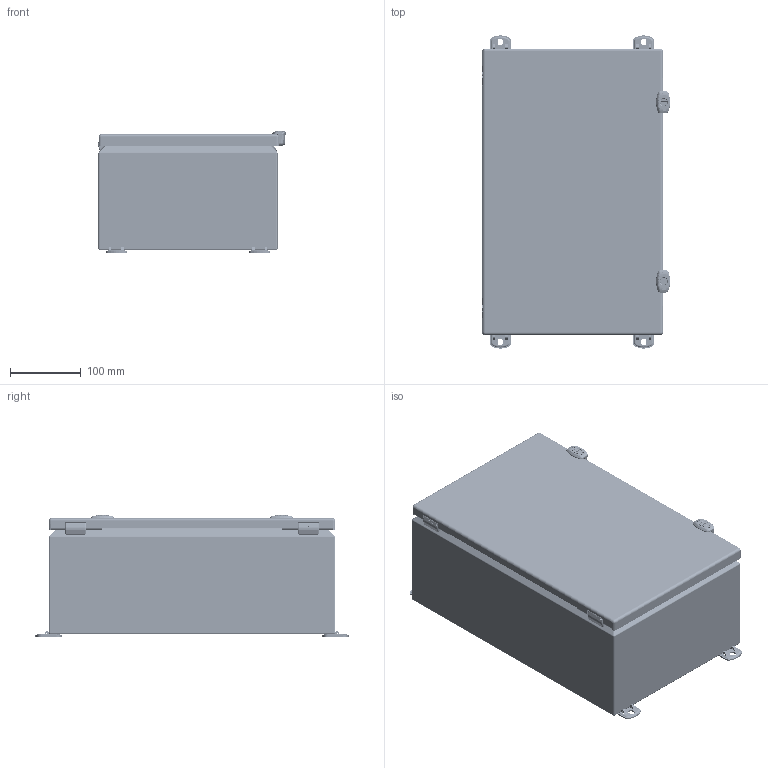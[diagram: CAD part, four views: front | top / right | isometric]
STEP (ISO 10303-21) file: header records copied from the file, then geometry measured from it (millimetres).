
FILE_DESCRIPTION(/* description */ ('5412ESSMCH 16" x 10" x 6" Assembly'),/* implementation_level */ '2;1');
FILE_NAME(/* name */ 'C:\Vault_Workspace\Inventor_Dwg\BoxCad\Result\5412ESSMCH1610066\e-mail\3D\5412ESSMCH1610066.stp',/* time_stamp */ '2023-03-13T14:39:57-04:00',/* author */ ('BoxCad'),/* organization */ (''),/* preprocessor_version */ 'ST-DEVELOPER v18.1',/* originating_system */ 'Autodesk Inventor 2020',/* authorisation */ '');
FILE_SCHEMA (('AUTOMOTIVE_DESIGN { 1 0 10303 214 3 1 1 }'));
Products named in the file (44): 5412ESSMCH1610066; 5412ESSMCH1610066B; 5412ESSMCH1610066B-P; STK-Q-08500; STK-A-70469-1; STK-Q-08100-1; STK-A-70469-2; STK-Q-70469-P; STK-Q-70469-S; STK-Q-70469-O; STK-Q-08100-2; 880SP1610G; 880SP1610G-P; 5412ESSMCH1610066AK; STK-Q-71350; STK-Q-10251; STK-Q-10251-A; STK-Q-10251-B; STK-Q-03075; STK-Q-07260; STK-Q-03200; 5412ESSMCH1610066C; 5412ESSMCH1610066C-P; 5412ESSMCH1610066G; STK-A-33038-1; STK-A-33038-2; STK-Q-33038-B; STK-Q-33038-S; STK-Q-33038-G; STANDOFF_SS_M6 x 10mm; STK-S-00100; STK-A-880SCQ3MS-1; STK-A-880SCQ3MS-2; STK-Q-79961-A; STK-Q-79961-B; STK-Q-70820; STK-Q-08100-3; STK-Q-08100-4; STK-Q-08100-A; STK-Q-08100-B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
Assembly tree (79 placements, depth 4):
  5412ESSMCH1610066
    5412ESSMCH1610066B
      5412ESSMCH1610066B-P
      STK-Q-08500  x4
      STANDOFF_SS_M6 x 10mm
      STK-A-70469-1
        STK-Q-70469-P
        STK-Q-70469-S
        STK-Q-70469-O
      STK-Q-08100-1
        STK-Q-08100-A
        STK-Q-08100-B
      STK-A-70469-2
        STK-Q-70469-P
        STK-Q-70469-S
        STK-Q-70469-O
      STK-Q-08100-2
        STK-Q-08100-A
        STK-Q-08100-B
    880SP1610G
      880SP1610G-P
    5412ESSMCH1610066AK
      STK-Q-71350  x4
      STK-Q-03075  x4
      STK-Q-10251  x4
        STK-Q-10251-A
        STK-Q-10251-B
      STK-Q-07260  x4
      STK-Q-03200  x4
    5412ESSMCH1610066C
      5412ESSMCH1610066C-P
      5412ESSMCH1610066G
      STK-A-33038-1
        STK-Q-33038-B
        STK-Q-33038-S
        STK-Q-33038-G
      STK-A-33038-2
        STK-Q-33038-B
        STK-Q-33038-S
        STK-Q-33038-G
      STANDOFF_SS_M6 x 10mm
      STK-S-00100
      STK-A-880SCQ3MS-1
        STK-Q-79961-A
        STK-Q-79961-B
        STK-Q-70820
      STK-A-880SCQ3MS-2
        STK-Q-79961-A
        STK-Q-79961-B
        STK-Q-70820
    STK-Q-08100-3
      STK-Q-08100-A
      STK-Q-08100-B
    STK-Q-08100-4
      STK-Q-08100-A
      STK-Q-08100-B
    STK-Q-10249-3
      STK-Q-10249-A
      STK-Q-10249-B
    STK-Q-10249-4
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Bounding box: 266.67 x 444.4 x 171.7 mm (x, y, z)
Volume: 820004.4 mm3; surface area: 1149964.2 mm2
Topology: 67 solids, 67 shells, 8527 faces, 21870 edges, 13432 vertices
Faces by surface type: plane 3923, cylinder 1858, bspline 1824, torus 522, cone 208, sphere 192
Full cylindrical faces by diameter (mm): 0.762 x6, 0.9 x6, 3 x2, 3.175 x2, 3.25 x2, 4.2 x4, 4.4 x12, 4.45 x2, 4.9 x30, 5 x4, 5.1 x34, 5.9 x84, 6 x8, 6.1 x6, 7.62 x4, 8.128 x4, 8.382 x2, 8.6 x2, 10 x6, 10.465 x2, 10.7 x2, 13 x4
Entity records: 133189 total; most frequent: CARTESIAN_POINT 47833, ORIENTED_EDGE 18478, DIRECTION 15794, EDGE_CURVE 9239, VERTEX_POINT 5757, AXIS2_PLACEMENT_3D 5337, LINE 5120, VECTOR 5120
